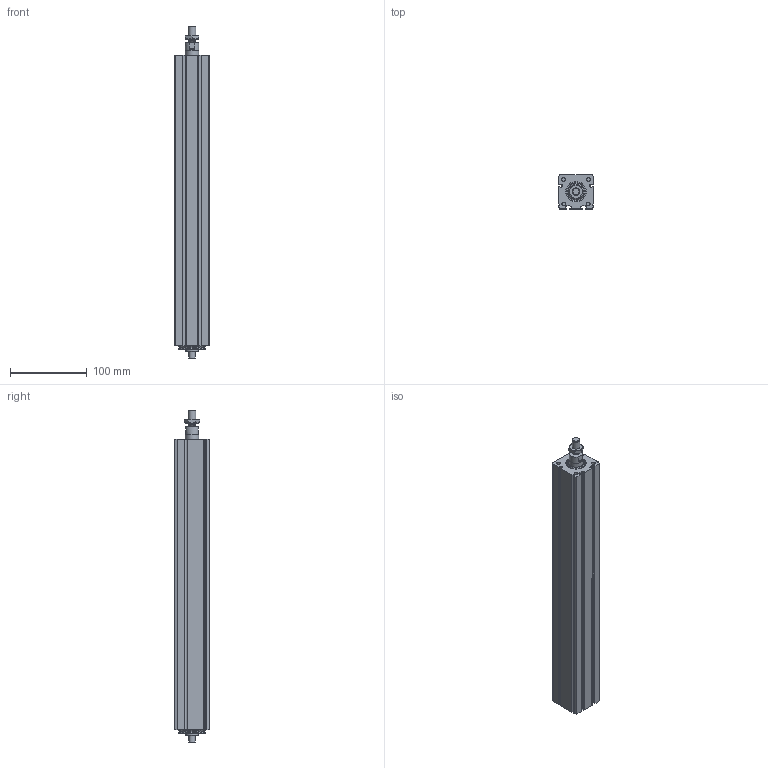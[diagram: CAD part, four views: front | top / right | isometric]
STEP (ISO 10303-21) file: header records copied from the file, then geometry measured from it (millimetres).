
FILE_DESCRIPTION(/* description */ ('STEP AP203'),/* implementation_level */ '2;1');
FILE_NAME(/* name */ 'MCE 45 1003 300 0(0)',/* time_stamp */ '2024-07-10T16:00:05+02:00',/* author */ ('License CC BY-ND 4.0'),/* organization */ ('CADENAS'),/* preprocessor_version */ 'ST-DEVELOPER v19.3',/* originating_system */ 'PARTsolutions',/* authorisation */ ' ');
FILE_SCHEMA (('CONFIG_CONTROL_DESIGN'));
Length unit declared in the file: millimetre
Products named in the file (4): MCE 45 1003 300  0(0); 45(300)_msc; 45(3000)_rod; 45_nut
Assembly tree (3 placements, depth 2):
  MCE 45 1003 300  0(0)
    45(300)_msc
    45(3000)_rod
    45_nut
Bounding box: 45 x 45 x 434 mm (x, y, z)
Volume: 568743.9 mm3; surface area: 158012.4 mm2
Topology: 3 solids, 3 shells, 212 faces, 525 edges, 341 vertices
Faces by surface type: plane 92, cylinder 92, cone 23, torus 5
Full cylindrical faces by diameter (mm): 3.242 x4, 4.917 x4, 8 x2, 8.376 x1, 10 x1, 16 x1, 17.8 x1, 18 x2, 24 x1, 24.5 x1, 32.5 x2, 34 x2
Entity records: 6269 total; most frequent: CARTESIAN_POINT 1132, DIRECTION 1108, ORIENTED_EDGE 970, EDGE_CURVE 485, AXIS2_PLACEMENT_3D 433, VERTEX_POINT 339, EDGE_LOOP 274, FACE_BOUND 274
